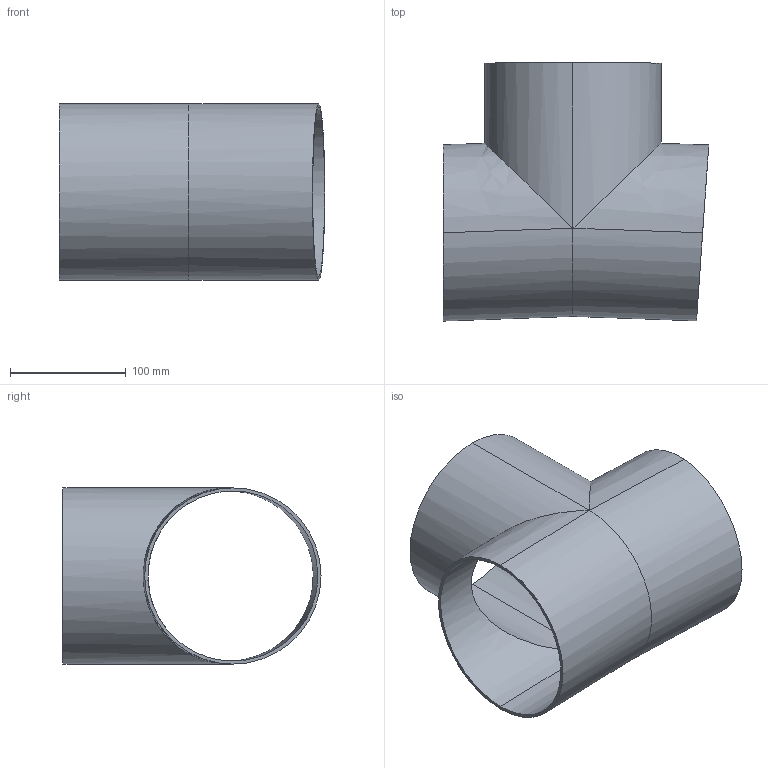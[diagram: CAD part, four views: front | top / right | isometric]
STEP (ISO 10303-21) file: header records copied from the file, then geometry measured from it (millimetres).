
FILE_DESCRIPTION (( 'STEP AP214' ), '1' );
FILE_NAME ('TA176WWW 6.0.STEP', '2025-07-30T12:39:00', ( '' ), ( '' ), 'SwSTEP 2.0', 'SolidWorks 2022', '' );
FILE_SCHEMA (( 'AUTOMOTIVE_DESIGN' ));
Length unit declared in the file: inch
Products named in the file (1): TA176WWW 6.0
Bounding box: 229.51 x 222.99 x 152.4 mm (x, y, z)
Volume: 356115.5 mm3; surface area: 261036 mm2
Topology: 1 solids, 1 shells, 15 faces, 30 edges, 16 vertices
Faces by surface type: bspline 8, cylinder 4, plane 3
Entity records: 2596 total; most frequent: CARTESIAN_POINT 2298, ORIENTED_EDGE 60, DIRECTION 36, EDGE_CURVE 30, B_SPLINE_CURVE_WITH_KNOTS 18, EDGE_LOOP 18, AXIS2_PLACEMENT_3D 16, VERTEX_POINT 16
